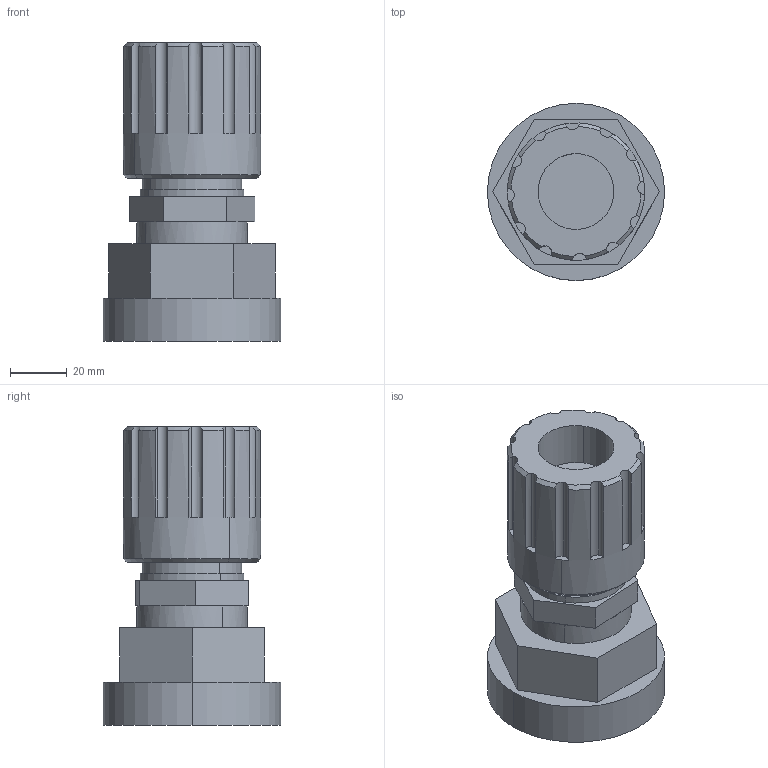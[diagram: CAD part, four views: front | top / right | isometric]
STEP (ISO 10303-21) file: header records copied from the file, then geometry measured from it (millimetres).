
FILE_DESCRIPTION (( 'STEP AP214' ), '1' );
FILE_NAME ('16-flaretek-top-out.STEP', '2012-12-03T20:57:58', ( '' ), ( '' ), 'SwSTEP 2.0', 'SolidWorks 2012', '' );
FILE_SCHEMA (( 'AUTOMOTIVE_DESIGN' ));
Length unit declared in the file: inch
Products named in the file (1): 16-flaretek-top-out
Bounding box: 62.33 x 62.33 x 104.89 mm (x, y, z)
Volume: 190362 mm3; surface area: 26490.9 mm2
Topology: 1 solids, 1 shells, 87 faces, 223 edges, 144 vertices
Faces by surface type: plane 44, cylinder 29, cone 14
Entity records: 2980 total; most frequent: CARTESIAN_POINT 581, DIRECTION 479, ORIENTED_EDGE 446, EDGE_CURVE 223, AXIS2_PLACEMENT_3D 194, VERTEX_POINT 144, CIRCLE 106, EDGE_LOOP 93
